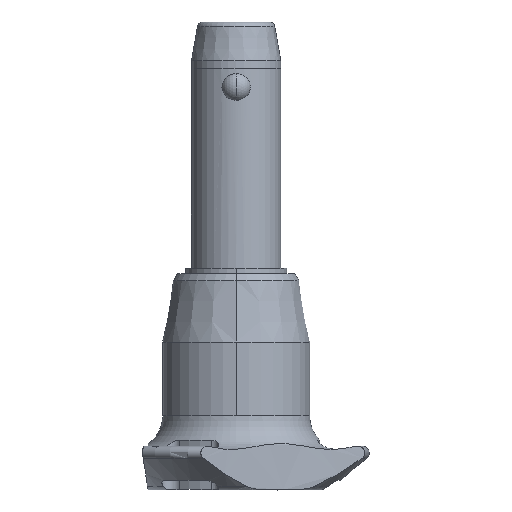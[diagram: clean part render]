
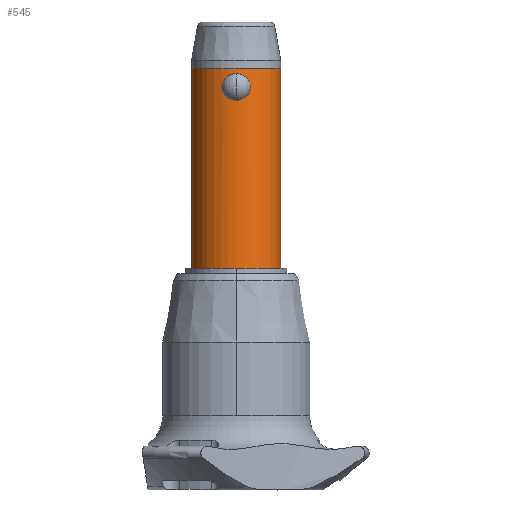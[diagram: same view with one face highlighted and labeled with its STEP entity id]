
A CAD part, front view. The second image highlights one B-rep face of the part: STEP entity #545.
In plain terms, the highlighted cylindrical face has radius 8 mm (diameter 16 mm), a partial arc.
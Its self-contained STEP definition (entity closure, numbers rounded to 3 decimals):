
#68 = CARTESIAN_POINT ( 'NONE',  ( -0.652, -7.979, 0.058 ) ) ;
#110 = ORIENTED_EDGE ( 'NONE', *, *, #2627, .F. ) ;
#140 = B_SPLINE_CURVE_WITH_KNOTS ( 'NONE', 3,
 ( #822, #2593, #2822, #2400, #536, #806, #2645, #768, #1483, #1731, #1668, #313, #521, #346, #587, #1887, #2811, #2385, #1514, #1681, #1915, #556, #1011, #2857, #1237, #1464, #1498, #68, #1206, #2367 ),
 .UNSPECIFIED., .F., .F.,
 ( 4, 2, 2, 2, 2, 2, 2, 2, 2, 2, 2, 2, 2, 2, 4 ),
 ( 0., 0., 0.001, 0.001, 0.002, 0.002, 0.003, 0.003, 0.004, 0.004, 0.005, 0.006, 0.006, 0.007, 0.008 ),
 .UNSPECIFIED. ) ;
#174 = CARTESIAN_POINT ( 'NONE',  ( 2.547, -7.584, 2.549 ) ) ;
#184 = LINE ( 'NONE', #2482, #1923 ) ;
#225 = ORIENTED_EDGE ( 'NONE', *, *, #2775, .T. ) ;
#230 = CARTESIAN_POINT ( 'NONE',  ( 1.252, -7.903, 0.296 ) ) ;
#313 = CARTESIAN_POINT ( 'NONE',  ( -2.193, -7.694, 3.623 ) ) ;
#327 = VERTEX_POINT ( 'NONE', #1692 ) ;
#346 = CARTESIAN_POINT ( 'NONE',  ( -2.408, -7.629, 3.189 ) ) ;
#420 = CARTESIAN_POINT ( 'NONE',  ( 0.645, -7.976, 4.704 ) ) ;
#439 = EDGE_LOOP ( 'NONE', ( #2737, #110, #225, #2916 ) ) ;
#443 = EDGE_CURVE ( 'NONE', #522, #2961, #184, .T. ) ;
#458 = CARTESIAN_POINT ( 'NONE',  ( -8., 0., -30. ) ) ;
#470 = FACE_OUTER_BOUND ( 'NONE', #439, .T. ) ;
#521 = CARTESIAN_POINT ( 'NONE',  ( -2.276, -7.67, 3.482 ) ) ;
#522 = VERTEX_POINT ( 'NONE', #458 ) ;
#536 = CARTESIAN_POINT ( 'NONE',  ( -0.803, -7.961, 4.661 ) ) ;
#545 = ADVANCED_FACE ( 'NONE', ( #470, #2759 ), #2835, .T. ) ;
#553 = CIRCLE ( 'NONE', #2468, 8. ) ;
#556 = CARTESIAN_POINT ( 'NONE',  ( -2.211, -7.69, 1.148 ) ) ;
#568 = CARTESIAN_POINT ( 'NONE',  ( 1.105, -7.925, 0.226 ) ) ;
#575 = CARTESIAN_POINT ( 'NONE',  ( 8., 0., 5.6 ) ) ;
#587 = CARTESIAN_POINT ( 'NONE',  ( -2.459, -7.613, 3.036 ) ) ;
#592 = CARTESIAN_POINT ( 'NONE',  ( 8., 0., -30. ) ) ;
#662 = CARTESIAN_POINT ( 'NONE',  ( 2.546, -7.584, 2.22 ) ) ;
#681 = DIRECTION ( 'NONE',  ( 0., 0., 1. ) ) ;
#688 = CARTESIAN_POINT ( 'NONE',  ( 1.529, -7.854, 4.312 ) ) ;
#719 = EDGE_CURVE ( 'NONE', #327, #2125, #1119, .T. ) ;
#768 = CARTESIAN_POINT ( 'NONE',  ( -1.527, -7.854, 4.313 ) ) ;
#784 = EDGE_LOOP ( 'NONE', ( #2380, #923 ) ) ;
#795 = EDGE_CURVE ( 'NONE', #2961, #2008, #1511, .T. ) ;
#802 = CARTESIAN_POINT ( 'NONE',  ( 0.652, -7.979, 0.058 ) ) ;
#806 = CARTESIAN_POINT ( 'NONE',  ( -1.107, -7.924, 4.548 ) ) ;
#822 = CARTESIAN_POINT ( 'NONE',  ( 0., -8., 4.775 ) ) ;
#838 = AXIS2_PLACEMENT_3D ( 'NONE', #1801, #2061, #2244 ) ;
#876 = CARTESIAN_POINT ( 'NONE',  ( 1.529, -7.854, 0.463 ) ) ;
#905 = CARTESIAN_POINT ( 'NONE',  ( 2.461, -7.612, 3.027 ) ) ;
#917 = CARTESIAN_POINT ( 'NONE',  ( 1.108, -7.924, 4.548 ) ) ;
#923 = ORIENTED_EDGE ( 'NONE', *, *, #719, .F. ) ;
#999 = CARTESIAN_POINT ( 'NONE',  ( 0., 0., -30. ) ) ;
#1011 = CARTESIAN_POINT ( 'NONE',  ( -2.016, -7.746, 0.883 ) ) ;
#1048 = DIRECTION ( 'NONE',  ( 0., 0., 1. ) ) ;
#1119 = B_SPLINE_CURVE_WITH_KNOTS ( 'NONE', 3,
 ( #1540, #1930, #802, #568, #230, #876, #2486, #1359, #2048, #2232, #1375, #2259, #2274, #2034, #662, #174, #1583, #905, #2456, #2941, #2720, #1389, #688, #1815, #917, #1330, #420, #2748, #1553, #2287 ),
 .UNSPECIFIED., .F., .F.,
 ( 4, 2, 2, 2, 2, 2, 2, 2, 2, 2, 2, 2, 2, 2, 4 ),
 ( 0.008, 0.009, 0.009, 0.01, 0.01, 0.011, 0.011, 0.012, 0.012, 0.013, 0.014, 0.014, 0.015, 0.015, 0.016 ),
 .UNSPECIFIED. ) ;
#1206 = CARTESIAN_POINT ( 'NONE',  ( -0.324, -8., 0. ) ) ;
#1237 = CARTESIAN_POINT ( 'NONE',  ( -1.53, -7.854, 0.464 ) ) ;
#1330 = CARTESIAN_POINT ( 'NONE',  ( 0.804, -7.961, 4.661 ) ) ;
#1346 = VERTEX_POINT ( 'NONE', #2057 ) ;
#1359 = CARTESIAN_POINT ( 'NONE',  ( 1.894, -7.773, 0.773 ) ) ;
#1375 = CARTESIAN_POINT ( 'NONE',  ( 2.275, -7.67, 1.291 ) ) ;
#1389 = CARTESIAN_POINT ( 'NONE',  ( 1.66, -7.827, 4.215 ) ) ;
#1444 = CARTESIAN_POINT ( 'NONE',  ( 0., -8., 4.775 ) ) ;
#1464 = CARTESIAN_POINT ( 'NONE',  ( -1.254, -7.902, 0.297 ) ) ;
#1483 = CARTESIAN_POINT ( 'NONE',  ( -1.658, -7.827, 4.216 ) ) ;
#1497 = EDGE_CURVE ( 'NONE', #2125, #327, #140, .T. ) ;
#1498 = CARTESIAN_POINT ( 'NONE',  ( -1.106, -7.925, 0.226 ) ) ;
#1511 = CIRCLE ( 'NONE', #838, 8. ) ;
#1514 = CARTESIAN_POINT ( 'NONE',  ( -2.529, -7.59, 2.064 ) ) ;
#1540 = CARTESIAN_POINT ( 'NONE',  ( 0., -8., 0. ) ) ;
#1553 = CARTESIAN_POINT ( 'NONE',  ( 0.164, -8., 4.775 ) ) ;
#1583 = CARTESIAN_POINT ( 'NONE',  ( 2.529, -7.59, 2.71 ) ) ;
#1668 = CARTESIAN_POINT ( 'NONE',  ( -2.003, -7.746, 3.882 ) ) ;
#1681 = CARTESIAN_POINT ( 'NONE',  ( -2.461, -7.612, 1.746 ) ) ;
#1692 = CARTESIAN_POINT ( 'NONE',  ( 0., -8., 0. ) ) ;
#1731 = CARTESIAN_POINT ( 'NONE',  ( -1.896, -7.773, 4.001 ) ) ;
#1733 = LINE ( 'NONE', #592, #1943 ) ;
#1801 = CARTESIAN_POINT ( 'NONE',  ( 0., 0., 5.6 ) ) ;
#1815 = CARTESIAN_POINT ( 'NONE',  ( 1.253, -7.903, 4.478 ) ) ;
#1887 = CARTESIAN_POINT ( 'NONE',  ( -2.529, -7.59, 2.716 ) ) ;
#1915 = CARTESIAN_POINT ( 'NONE',  ( -2.411, -7.628, 1.592 ) ) ;
#1923 = VECTOR ( 'NONE', #2028, 1000. ) ;
#1930 = CARTESIAN_POINT ( 'NONE',  ( 0.324, -8., 0. ) ) ;
#1943 = VECTOR ( 'NONE', #1048, 1000. ) ;
#2008 = VERTEX_POINT ( 'NONE', #575 ) ;
#2028 = DIRECTION ( 'NONE',  ( 0., 0., 1. ) ) ;
#2034 = CARTESIAN_POINT ( 'NONE',  ( 2.528, -7.59, 2.058 ) ) ;
#2048 = CARTESIAN_POINT ( 'NONE',  ( 2.004, -7.746, 0.894 ) ) ;
#2057 = CARTESIAN_POINT ( 'NONE',  ( 8., 0., -30. ) ) ;
#2061 = DIRECTION ( 'NONE',  ( 0., 0., 1. ) ) ;
#2072 = AXIS2_PLACEMENT_3D ( 'NONE', #2743, #681, #2511 ) ;
#2102 = DIRECTION ( 'NONE',  ( 0., -1., 0. ) ) ;
#2125 = VERTEX_POINT ( 'NONE', #1444 ) ;
#2146 = DIRECTION ( 'NONE',  ( 0., 0., -1. ) ) ;
#2209 = CARTESIAN_POINT ( 'NONE',  ( -8., 0., 5.6 ) ) ;
#2232 = CARTESIAN_POINT ( 'NONE',  ( 2.194, -7.694, 1.153 ) ) ;
#2244 = DIRECTION ( 'NONE',  ( 1., 0., 0. ) ) ;
#2259 = CARTESIAN_POINT ( 'NONE',  ( 2.408, -7.629, 1.586 ) ) ;
#2274 = CARTESIAN_POINT ( 'NONE',  ( 2.46, -7.613, 1.742 ) ) ;
#2287 = CARTESIAN_POINT ( 'NONE',  ( 0., -8., 4.775 ) ) ;
#2367 = CARTESIAN_POINT ( 'NONE',  ( 0., -8., 0. ) ) ;
#2380 = ORIENTED_EDGE ( 'NONE', *, *, #1497, .F. ) ;
#2385 = CARTESIAN_POINT ( 'NONE',  ( -2.547, -7.584, 2.229 ) ) ;
#2400 = CARTESIAN_POINT ( 'NONE',  ( -0.645, -7.976, 4.704 ) ) ;
#2456 = CARTESIAN_POINT ( 'NONE',  ( 2.41, -7.629, 3.184 ) ) ;
#2468 = AXIS2_PLACEMENT_3D ( 'NONE', #999, #2146, #2102 ) ;
#2482 = CARTESIAN_POINT ( 'NONE',  ( -8., 0., -30. ) ) ;
#2486 = CARTESIAN_POINT ( 'NONE',  ( 1.657, -7.827, 0.558 ) ) ;
#2511 = DIRECTION ( 'NONE',  ( 1., 0., 0. ) ) ;
#2593 = CARTESIAN_POINT ( 'NONE',  ( -0.164, -8., 4.775 ) ) ;
#2627 = EDGE_CURVE ( 'NONE', #1346, #522, #553, .T. ) ;
#2645 = CARTESIAN_POINT ( 'NONE',  ( -1.252, -7.903, 4.479 ) ) ;
#2720 = CARTESIAN_POINT ( 'NONE',  ( 2.016, -7.746, 3.891 ) ) ;
#2737 = ORIENTED_EDGE ( 'NONE', *, *, #443, .F. ) ;
#2743 = CARTESIAN_POINT ( 'NONE',  ( 0., 0., -30. ) ) ;
#2748 = CARTESIAN_POINT ( 'NONE',  ( 0.326, -7.995, 4.761 ) ) ;
#2759 = FACE_BOUND ( 'NONE', #784, .T. ) ;
#2775 = EDGE_CURVE ( 'NONE', #1346, #2008, #1733, .T. ) ;
#2811 = CARTESIAN_POINT ( 'NONE',  ( -2.546, -7.584, 2.553 ) ) ;
#2822 = CARTESIAN_POINT ( 'NONE',  ( -0.326, -7.995, 4.761 ) ) ;
#2835 = CYLINDRICAL_SURFACE ( 'NONE', #2072, 8. ) ;
#2857 = CARTESIAN_POINT ( 'NONE',  ( -1.659, -7.827, 0.559 ) ) ;
#2916 = ORIENTED_EDGE ( 'NONE', *, *, #795, .F. ) ;
#2941 = CARTESIAN_POINT ( 'NONE',  ( 2.211, -7.69, 3.626 ) ) ;
#2961 = VERTEX_POINT ( 'NONE', #2209 ) ;
